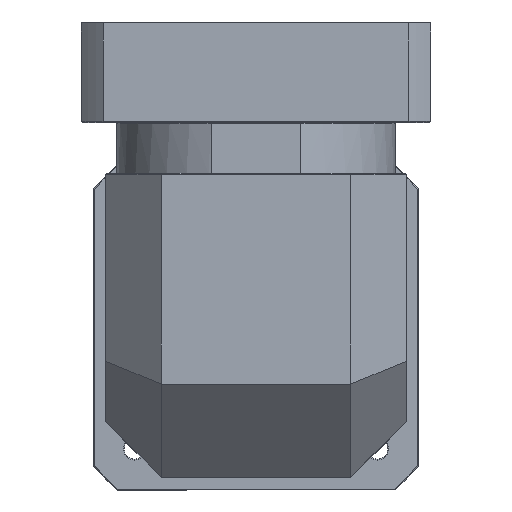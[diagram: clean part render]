
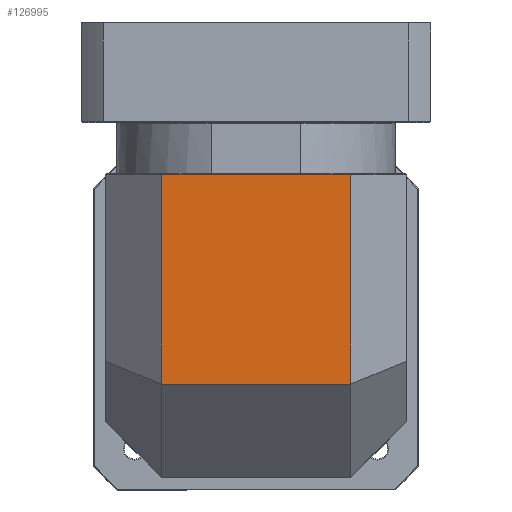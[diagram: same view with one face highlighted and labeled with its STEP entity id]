
A CAD part, top view. The second image highlights one B-rep face of the part: STEP entity #126995.
In plain terms, the highlighted planar face has unit normal (0, 0, 1).
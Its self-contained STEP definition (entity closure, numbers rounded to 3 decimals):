
#2973 = LINE ( 'NONE', #3633, #91914 ) ;
#3633 = CARTESIAN_POINT ( 'NONE',  ( -171.956, 162.116, 95.461 ) ) ;
#7664 = CARTESIAN_POINT ( 'NONE',  ( -39.956, 49.116, 95.461 ) ) ;
#11538 = VERTEX_POINT ( 'NONE', #53550 ) ;
#13004 = VERTEX_POINT ( 'NONE', #96091 ) ;
#14611 = VECTOR ( 'NONE', #42631, 1000. ) ;
#16482 = VECTOR ( 'NONE', #106715, 1000. ) ;
#19566 = PLANE ( 'NONE',  #31212 ) ;
#27069 = ORIENTED_EDGE ( 'NONE', *, *, #35396, .F. ) ;
#29054 = CARTESIAN_POINT ( 'NONE',  ( -141.956, 80.866, 95.461 ) ) ;
#31212 = AXIS2_PLACEMENT_3D ( 'NONE', #99740, #39741, #60707 ) ;
#32281 = ORIENTED_EDGE ( 'NONE', *, *, #46670, .F. ) ;
#33665 = DIRECTION ( 'NONE',  ( -1., 0., 0. ) ) ;
#35396 = EDGE_CURVE ( 'NONE', #11538, #112082, #119103, .T. ) ;
#39741 = DIRECTION ( 'NONE',  ( 0., 0., -1. ) ) ;
#42631 = DIRECTION ( 'NONE',  ( 0., -1., 0. ) ) ;
#46670 = EDGE_CURVE ( 'NONE', #112082, #13004, #62908, .T. ) ;
#49773 = ORIENTED_EDGE ( 'NONE', *, *, #82419, .F. ) ;
#53550 = CARTESIAN_POINT ( 'NONE',  ( -39.956, 162.116, 95.461 ) ) ;
#59498 = VERTEX_POINT ( 'NONE', #72257 ) ;
#59847 = VECTOR ( 'NONE', #79823, 1000. ) ;
#60707 = DIRECTION ( 'NONE',  ( 1., 0., 0. ) ) ;
#62908 = LINE ( 'NONE', #119410, #59847 ) ;
#71239 = EDGE_LOOP ( 'NONE', ( #27069, #119374, #49773, #32281 ) ) ;
#72257 = CARTESIAN_POINT ( 'NONE',  ( -141.956, 162.116, 95.461 ) ) ;
#79823 = DIRECTION ( 'NONE',  ( -1., 0., 0. ) ) ;
#82419 = EDGE_CURVE ( 'NONE', #13004, #59498, #105456, .T. ) ;
#91905 = CARTESIAN_POINT ( 'NONE',  ( -39.956, 162.616, 95.461 ) ) ;
#91914 = VECTOR ( 'NONE', #33665, 1000. ) ;
#96091 = CARTESIAN_POINT ( 'NONE',  ( -141.956, 49.116, 95.461 ) ) ;
#99740 = CARTESIAN_POINT ( 'NONE',  ( -171.956, 162.616, 95.461 ) ) ;
#103577 = EDGE_CURVE ( 'NONE', #11538, #59498, #2973, .T. ) ;
#105456 = LINE ( 'NONE', #29054, #16482 ) ;
#106715 = DIRECTION ( 'NONE',  ( 0., 1., 0. ) ) ;
#107226 = FACE_OUTER_BOUND ( 'NONE', #71239, .T. ) ;
#112082 = VERTEX_POINT ( 'NONE', #7664 ) ;
#119103 = LINE ( 'NONE', #91905, #14611 ) ;
#119374 = ORIENTED_EDGE ( 'NONE', *, *, #103577, .T. ) ;
#119410 = CARTESIAN_POINT ( 'NONE',  ( -171.956, 49.116, 95.461 ) ) ;
#126995 = ADVANCED_FACE ( 'NONE', ( #107226 ), #19566, .F. ) ;
